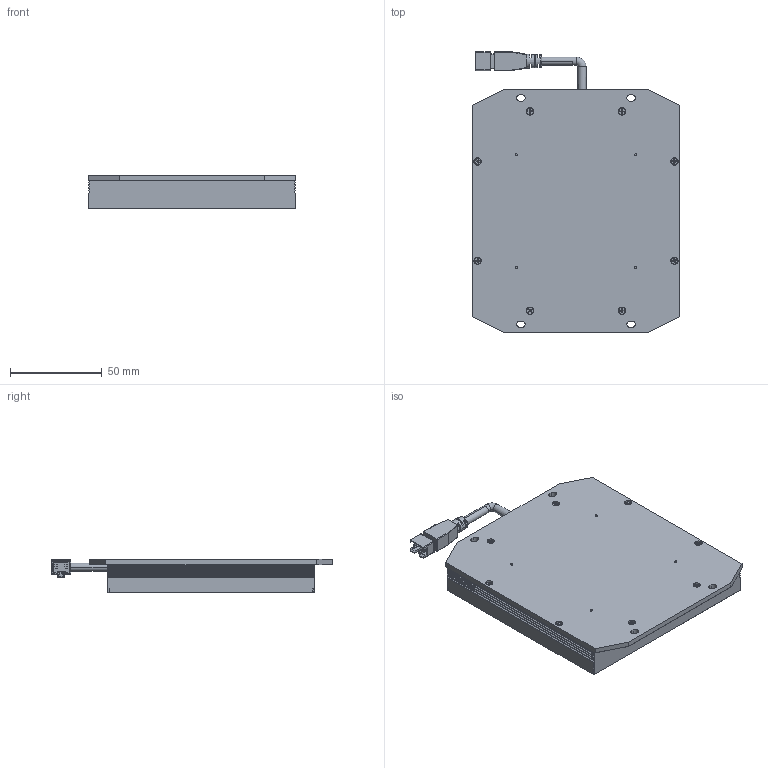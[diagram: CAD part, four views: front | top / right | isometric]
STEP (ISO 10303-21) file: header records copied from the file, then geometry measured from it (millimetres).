
FILE_DESCRIPTION((''),'2;1');
FILE_NAME('PRT0001','2022-11-04T18:04:17',('lizhoupeng'),(''),'CREO PARAMETRIC BY PTC INC, 2020044','CREO PARAMETRIC BY PTC INC, 2020044','');
FILE_SCHEMA(('CONFIG_CONTROL_DESIGN'));
Length unit declared in the file: millimetre
Products named in the file (1): PRT0001
Bounding box: 113 x 152.75 x 18 mm (x, y, z)
Volume: 236695.5 mm3; surface area: 43009 mm2
Topology: 1 solids, 34 shells, 1133 faces, 2727 edges, 1671 vertices
Faces by surface type: plane 675, cylinder 302, cone 98, torus 42, sphere 8, bspline 8
Entity records: 33165 total; most frequent: CARTESIAN_POINT 6775, DIRECTION 5503, ORIENTED_EDGE 5414, EDGE_CURVE 2707, AXIS2_PLACEMENT_3D 1889, VECTOR 1725, LINE 1725, VERTEX_POINT 1671
